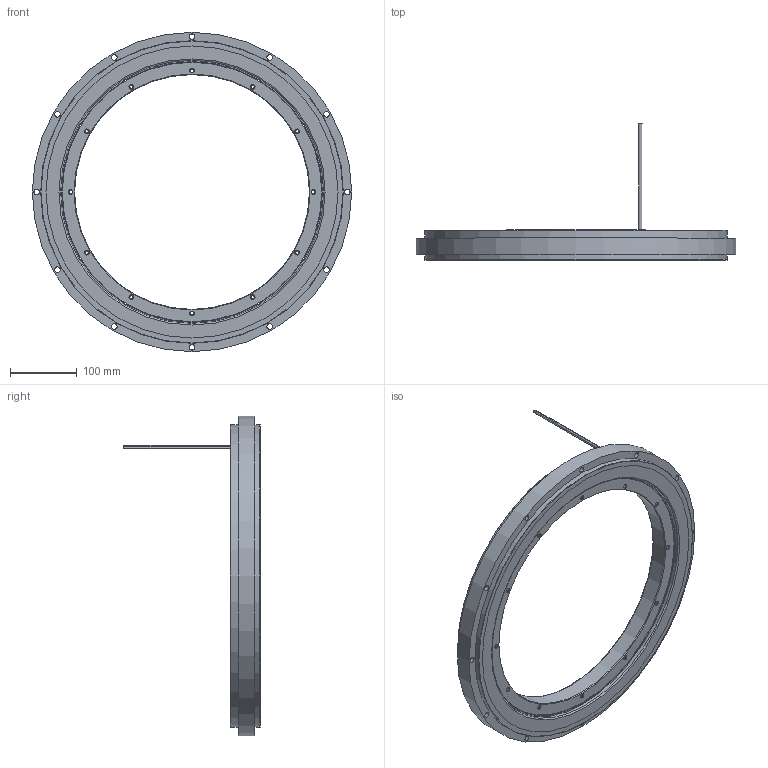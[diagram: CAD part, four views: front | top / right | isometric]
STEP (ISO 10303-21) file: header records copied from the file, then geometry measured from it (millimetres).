
FILE_DESCRIPTION(('STEP AP214'), '1');
FILE_NAME('楋樏襝鍱睯蜬蠈錪', '', ('UNSPECIFIED'), ('UNSPECIFIED'), 'C3D Converter', 'C3D Toolkit', '');
FILE_SCHEMA(('AUTOMOTIVE_DESIGN { 1 0 10303 214 3 1 1}'));
Length unit declared in the file: millimetre
Products named in the file (3): -02; МАНП.684252.020-10; МАНП.684222.023-10
Assembly tree (2 placements, depth 2):
  -02
    МАНП.684252.020-10
    МАНП.684222.023-10
Bounding box: 480 x 205 x 480 mm (x, y, z)
Volume: 2726363 mm3; surface area: 360376.9 mm2
Topology: 5 solids, 5 shells, 86 faces, 177 edges, 107 vertices
Faces by surface type: cylinder 37, cone 26, plane 16, torus 7
Full cylindrical faces by diameter (mm): 2.6 x3, 4.917 x12, 8.4 x12, 353 x1, 390.5 x1, 392 x1, 396 x2, 439 x2, 455 x2, 480 x1
Entity records: 2902 total; most frequent: DIRECTION 392, CARTESIAN_POINT 303, EDGE_LOOP 214, ORIENTED_EDGE 214, AXIS2_PLACEMENT_3D 196, FACE_OUTER_BOUND 140, EDGE_CURVE 107, VERTEX_POINT 107
